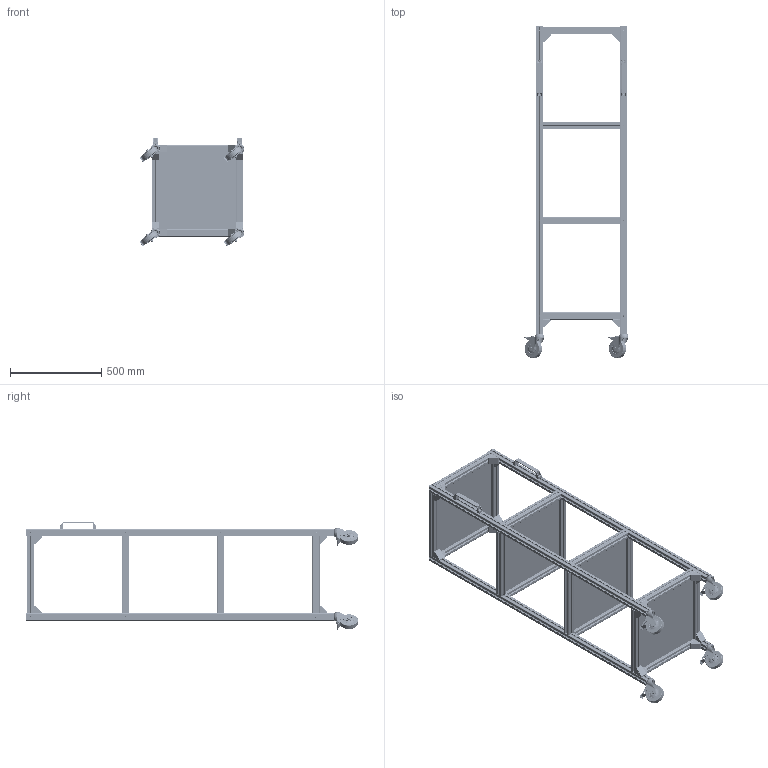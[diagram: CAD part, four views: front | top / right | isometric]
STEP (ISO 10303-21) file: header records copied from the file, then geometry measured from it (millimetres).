
FILE_DESCRIPTION (( 'STEP AP214' ), '1' );
FILE_NAME ('RSI 1008_500õ500õ1700_4.STEP', '2024-11-18T05:40:57', ( 'Àëåêñåé' ), ( '' ), 'SwSTEP 2.0', 'SolidWorks 2022', '' );
FILE_SCHEMA (( 'AUTOMOTIVE_DESIGN' ));
Length unit declared in the file: millimetre
Products named in the file (26): Гайка М8 DIN 6923_Резьба; RSI935100М12; RSI935100М12-1; Болт M8 ГОСТ 7798-70_Болт М8-6gх50ГОСТ 7798-70; RSI935100М12-5; RSI 1008_500х500х1700_4; 5026_5026 (М8х20, паз 8); RSI935100М12-2; OB-4040L Профиль 40х40 мм. Паз 8 мм (Анодированный)_L=1680 мм; Винт DIN7991 (потай) кл. пр. 8.8_М8x25; Винт ISO7380 (полусфера) кл. пр. 10.9_М8х20; OB-4040L Профиль 40х40 мм. Паз 8 мм (Анодированный)_L=420 мм; RSI935100М12-3; Винт DIN912 (полуцилиндр) кл. пр. 8.8_М8х16; Гайка самозажимная DIN 985_М8; 4003; Полка для RSI 1008_500х500х1700; 4044_L=420 мм; 3011; 5260_Сухарь пазовый с пружинкой, паз 8, М8, серия 40; RSI935100М12-4; 1038 Угловой соединитель 40х40_Угловой соединитель 40х40, паз 8 и 10; 1038cap_Заглушка к угловому соединителю 40х40 мм
Assembly tree (197 placements, depth 3):
  RSI 1008_500х500х1700_4
    OB-4040L Профиль 40х40 мм. Паз 8 мм (Анодированный)_L=1680 мм
    OB-4040L Профиль 40х40 мм. Паз 8 мм (Анодированный)_L=1680 мм
    OB-4040L Профиль 40х40 мм. Паз 8 мм (Анодированный)_L=1680 мм
    OB-4040L Профиль 40х40 мм. Паз 8 мм (Анодированный)_L=1680 мм
    RSI935100М12  x4
      RSI935100М12-1
      RSI935100М12-2
      RSI935100М12-3
      RSI935100М12-4
      Болт M8 ГОСТ 7798-70_Болт М8-6gх50ГОСТ 7798-70
      Гайка самозажимная DIN 985_М8
      RSI935100М12-5
    OB-4040L Профиль 40х40 мм. Паз 8 мм (Анодированный)_L=420 мм  x16
    Винт DIN7991 (потай) кл. пр. 8.8_М8x25  x4
    Винт ISO7380 (полусфера) кл. пр. 10.9_М8х20  x31
    3011  x2
    Винт DIN912 (полуцилиндр) кл. пр. 8.8_М8х16  x4
    5260_Сухарь пазовый с пружинкой, паз 8, М8, серия 40  x4
    4003  x4
    1038cap_Заглушка к угловому соединителю 40х40 мм  x16
    1038 Угловой соединитель 40х40_Угловой соединитель 40х40, паз 8 и 10  x16
    5026_5026 (М8х20, паз 8)  x32
    Гайка М8 DIN 6923_Резьба  x32
    4044_L=420 мм  x16
    Полка для RSI 1008_500х500х1700  x4
Bounding box: 573.26 x 1813.67 x 592.64 mm (x, y, z)
Volume: 8775991.5 mm3; surface area: 9917332.4 mm2
Topology: 585 solids, 585 shells, 26943 faces, 69888 edges, 44275 vertices
Faces by surface type: plane 13208, cylinder 7613, bspline 3354, torus 1334, cone 820, sphere 614
Entity records: 153812 total; most frequent: CARTESIAN_POINT 67273, ORIENTED_EDGE 18194, DIRECTION 14461, EDGE_CURVE 9097, VERTEX_POINT 5870, LINE 5075, VECTOR 5075, AXIS2_PLACEMENT_3D 4693
